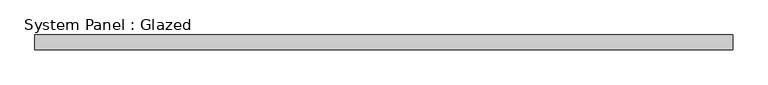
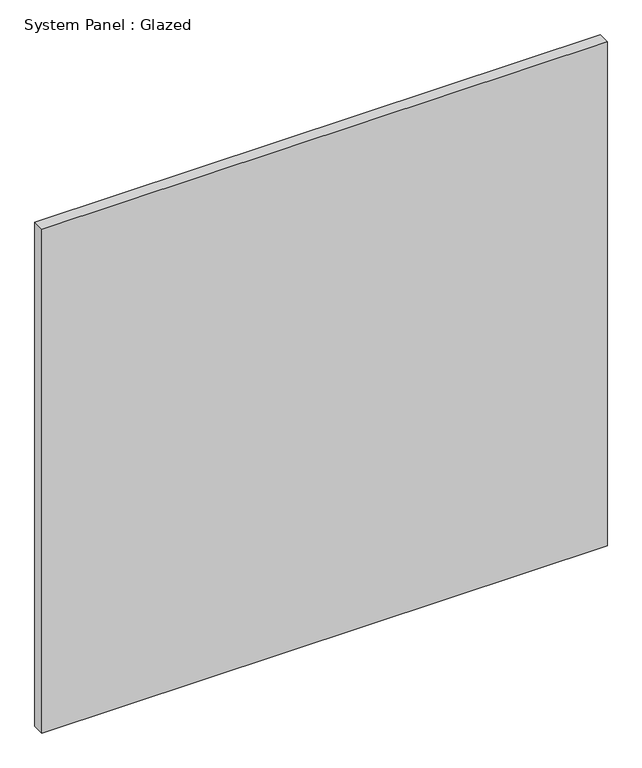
"""IFC4 building model written with IfcOpenShell, lengths in millimetres: plate geometry, System Panel : Glazed."""

from ifc_helpers import new_model, si_unit, origin, origin_with_axes, place, context, project, spatial, polyline, outline, extrude, source, transform, mapped, element, save


def system_panel_glazed_ec8bd232(model_context):
    return source(origin(), model_context, "Body", "SweptSolid", [
        extrude(outline(polyline([(597.3125, 24.5), (-597.3125, 24.5), (-597.3125, 49.5), (597.3125, 49.5), (597.3125, 24.5)])), origin_with_axes(), (0.0, 0.0, 1.0), 1125.0),
    ])


if __name__ == "__main__":
    model = new_model("IFC4")
    model_context = context("Model", 3, world=origin())
    ifc_project = project(units=[si_unit("LENGTHUNIT", "METRE", prefix="MILLI")], contexts=[model_context])
    site = spatial("IfcSite", under=ifc_project)
    building = spatial("IfcBuilding", under=site)
    placement = place(None, origin())
    system_panel_glazed_shape = system_panel_glazed_ec8bd232(model_context)
    element("IfcPlate", 1, ObjectType="System Panel : Glazed", at=placement, inside=building, context=model_context, shape_type="MappedRepresentation", body=[
        mapped(system_panel_glazed_shape, transform((0.0, 0.0, 0.0), x_axis=(1.0, 0.0, 0.0), y_axis=(0.0, 1.0, 0.0), z_axis=(0.0, 0.0, 1.0))),
    ])
    save(model, "model.ifc")
